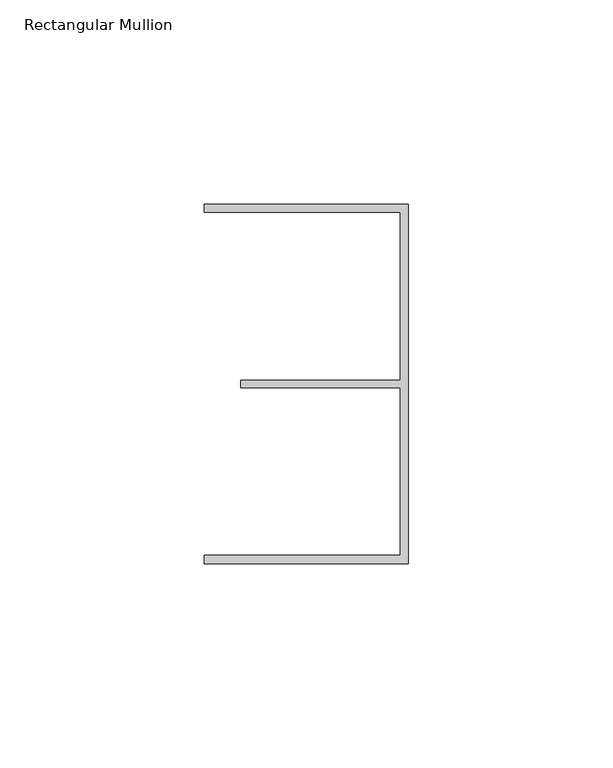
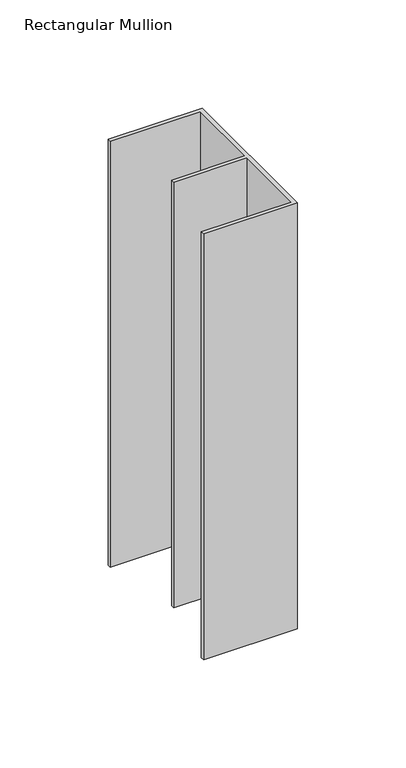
"""IFC4 building model written with IfcOpenShell, lengths in millimetres: member geometry, Rectangular Mullion : FLOOR_TRACK_CAP 94-KLS00-P80-SD41ALU."""

from ifc_helpers import new_model, si_unit, frame, origin, place, context, project, spatial, polyline, outline, extrude, source, transform, mapped, element, save


def rectangular_mullion_4f8e2eee(model_context):
    return source(origin(), model_context, "Body", "SweptSolid", [
        extrude(outline(polyline([(0.0, -44.0), (-50.0, -44.0), (-50.0, -42.0), (-2.0, -42.0), (-2.0, -0.9316478), (-41.0, -0.9316478), (-41.0, 0.9316478), (-2.0, 0.9316478), (-2.0, 42.0), (-50.0, 42.0), (-50.0, 44.0), (0.0, 44.0), (0.0, -44.0)])), frame((0.0, 0.0, -240.0), z_axis=(0.0, 0.0, 1.0), x_axis=(1.0, 0.0, 0.0)), (0.0, 0.0, 1.0), 240.0),
    ])


if __name__ == "__main__":
    model = new_model("IFC4")
    model_context = context("Model", 3, world=origin())
    ifc_project = project(units=[si_unit("LENGTHUNIT", "METRE", prefix="MILLI")], contexts=[model_context])
    site = spatial("IfcSite", under=ifc_project)
    building = spatial("IfcBuilding", under=site)
    placement = place(None, origin())
    rectangular_mullion_shape = rectangular_mullion_4f8e2eee(model_context)
    element("IfcMember", 1, ObjectType="Rectangular Mullion : FLOOR_TRACK_CAP 94-KLS00-P80-SD41ALU", at=placement, inside=building, context=model_context, shape_type="MappedRepresentation", body=[
        mapped(rectangular_mullion_shape, transform((0.0, 0.0, 0.0), x_axis=(1.0, 0.0, 0.0), y_axis=(0.0, 1.0, 0.0), z_axis=(0.0, 0.0, 1.0))),
    ])
    save(model, "model.ifc")
